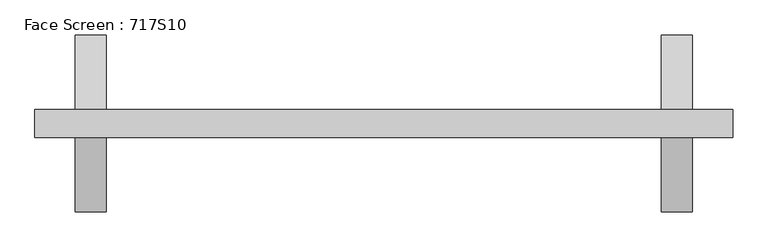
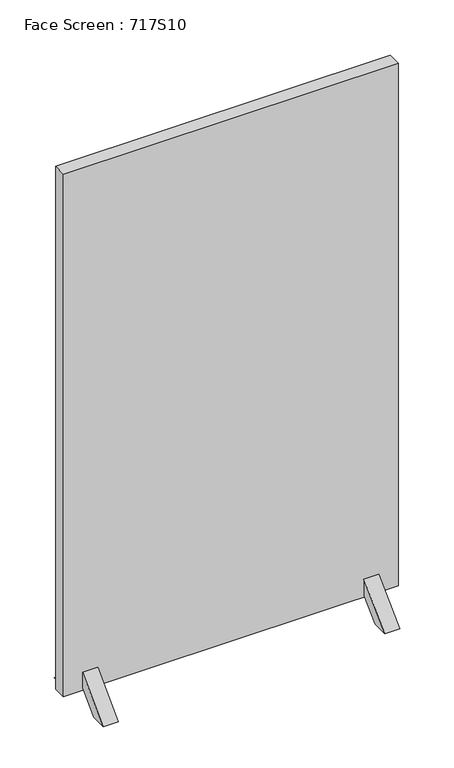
"""IFC4 building model written with IfcOpenShell, lengths in millimetres: furniture geometry, Face Screen : 717S10."""

from ifc_helpers import new_model, si_unit, frame, origin, place, context, project, spatial, polyline, outline, extrude, faceted_brep, source, transform, mapped, element, save


def face_screen_717s10_6311407a(model_context):
    return source(origin(), model_context, "Body", "SolidModel", [
        faceted_brep([(409.0, 20.0, 50.0955899), (409.0, 20.0, 57.4960966), (409.0, 37.6776695, 39.8184271), (409.0, -37.6776695, 39.8184271), (409.0, -20.0, 57.4960966), (409.0, -20.0, 50.0955899), (397.5, -126.9935713, 0.0), (442.5, -126.9935713, 0.0), (442.5, -20.0, 106.9935713), (397.5, -20.0, 106.9935713), (397.5, -77.4960966, 0.0), (442.5, -77.4960966, 0.0), (397.5, -20.0, 57.4960966), (431.0, -37.6776695, 39.8184271), (431.0, -20.0, 57.4960966), (442.5, -20.0, 57.4960966), (431.0, 20.0, 50.0955899), (431.0, -20.0, 50.0955899), (431.0, 37.6776695, 39.8184271), (431.0, 20.0, 57.4960966), (442.5, 20.0, 57.4960966), (442.5, 20.0, 106.9935713), (397.5, 20.0, 106.9935713), (397.5, 20.0, 57.4960966), (397.5, 126.9935713, 0.0), (397.5, 77.4960966, 0.0), (442.5, 77.4960966, 0.0), (442.5, 126.9935713, 0.0)], [[[0, 1, 2, 3, 4, 5]], [[6, 7, 8, 9]], [[10, 11, 7, 6]], [[12, 4, 3, 13, 14, 15, 11, 10]], [[16, 17, 14, 13, 18, 19]], [[5, 17, 16, 0]], [[4, 12, 9, 8, 15, 14, 17, 5]], [[2, 18, 13, 3]], [[0, 16, 19, 20, 21, 22, 23, 1]], [[22, 24, 25, 23]], [[9, 12, 10, 6]], [[21, 20, 26, 27]], [[8, 7, 11, 15]], [[25, 26, 20, 19, 18, 2, 1, 23]], [[24, 27, 26, 25]], [[22, 21, 27, 24]]]),
        faceted_brep([(-409.0, -20.0, 50.0955899), (-409.0, -20.0, 57.4960966), (-409.0, -37.6776695, 39.8184271), (-409.0, 37.6776695, 39.8184271), (-409.0, 20.0, 57.4960966), (-409.0, 20.0, 50.0955899), (-397.5, 126.9935713, 0.0), (-442.5, 126.9935713, 0.0), (-442.5, 20.0, 106.9935713), (-397.5, 20.0, 106.9935713), (-397.5, 77.4960966, 0.0), (-442.5, 77.4960966, 0.0), (-397.5, 20.0, 57.4960966), (-431.0, 37.6776695, 39.8184271), (-431.0, 20.0, 57.4960966), (-442.5, 20.0, 57.4960966), (-431.0, -20.0, 50.0955899), (-431.0, 20.0, 50.0955899), (-431.0, -37.6776695, 39.8184271), (-431.0, -20.0, 57.4960966), (-442.5, -20.0, 57.4960966), (-442.5, -20.0, 106.9935713), (-397.5, -20.0, 106.9935713), (-397.5, -20.0, 57.4960966), (-397.5, -126.9935713, 0.0), (-397.5, -77.4960966, 0.0), (-442.5, -77.4960966, 0.0), (-442.5, -126.9935713, 0.0)], [[[0, 1, 2, 3, 4, 5]], [[6, 7, 8, 9]], [[10, 11, 7, 6]], [[12, 4, 3, 13, 14, 15, 11, 10]], [[16, 17, 14, 13, 18, 19]], [[5, 17, 16, 0]], [[4, 12, 9, 8, 15, 14, 17, 5]], [[2, 18, 13, 3]], [[0, 16, 19, 20, 21, 22, 23, 1]], [[22, 24, 25, 23]], [[9, 12, 10, 6]], [[21, 20, 26, 27]], [[8, 7, 11, 15]], [[25, 26, 20, 19, 18, 2, 1, 23]], [[24, 27, 26, 25]], [[22, 21, 27, 24]]]),
        extrude(outline(polyline([(500.0, 20.0), (500.0, -20.0), (-500.0, -20.0), (-500.0, 20.0), (500.0, 20.0)])), frame((0.0, 0.0, 50.0), z_axis=(0.0, 0.0, 1.0), x_axis=(1.0, 0.0, 0.0)), (0.0, 0.0, 1.0), 1650.0),
    ])


if __name__ == "__main__":
    model = new_model("IFC4")
    model_context = context("Model", 3, world=origin())
    ifc_project = project(units=[si_unit("LENGTHUNIT", "METRE", prefix="MILLI")], contexts=[model_context])
    site = spatial("IfcSite", under=ifc_project)
    building = spatial("IfcBuilding", under=site)
    placement = place(None, origin())
    face_screen_717s10_shape = face_screen_717s10_6311407a(model_context)
    element("IfcFurniture", 1, ObjectType="Face Screen : 717S10", at=placement, inside=building, context=model_context, shape_type="MappedRepresentation", body=[
        mapped(face_screen_717s10_shape, transform((0.0, 0.0, 0.0), x_axis=(1.0, 0.0, 0.0), y_axis=(0.0, 1.0, 0.0), z_axis=(0.0, 0.0, 1.0))),
    ])
    save(model, "model.ifc")
